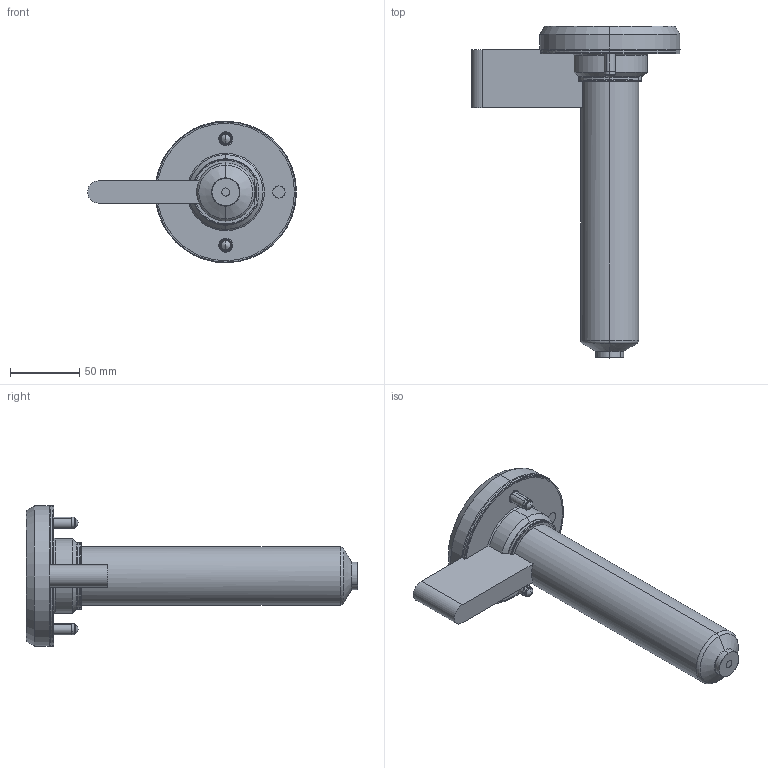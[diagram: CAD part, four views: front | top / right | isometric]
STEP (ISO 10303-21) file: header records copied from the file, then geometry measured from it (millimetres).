
FILE_DESCRIPTION (( 'STEP AP214' ), '1' );
FILE_NAME ('SOHSB16200-SOSRT1601.STEP', '2024-11-28T09:00:45', ( '' ), ( '' ), 'SwSTEP 2.0', 'SolidWorks 2022', '' );
FILE_SCHEMA (( 'AUTOMOTIVE_DESIGN' ));
Length unit declared in the file: millimetre
Products named in the file (9): EcoONE-HSB16-00002(A)_SOHSBLR16; SOHSB16200-SOSRT1601; EcoONE-HSB16-16005_SOTC10350-J; EcoONE-HSB16-16006_SONHC16; socket head cap screw_iso_ISO 4762 M8 x 25 - 25N; EcoONE-HSB16-Open Gate Sprue Tip_SOSRT1601; EcoONE-HSB16-Open Gate Cut-out Details_Sprue Gate or Full Body Gate; EcoONE-HSB16-16003(A)_SOHSBNB16200; EcoONE-HSB16-16004_SONH28192
Assembly tree (10 placements, depth 2):
  SOHSB16200-SOSRT1601
    EcoONE-HSB16-16003(A)_SOHSBNB16200
    EcoONE-HSB16-16004_SONH28192
    EcoONE-HSB16-16005_SOTC10350-J
    EcoONE-HSB16-16006_SONHC16  x2
    EcoONE-HSB16-00002(A)_SOHSBLR16
    socket head cap screw_iso_ISO 4762 M8 x 25 - 25N  x2
    EcoONE-HSB16-Open Gate Sprue Tip_SOSRT1601
    EcoONE-HSB16-Open Gate Cut-out Details_Sprue Gate or Full Body Gate
Bounding box: 151.2 x 240 x 102.4 mm (x, y, z)
Volume: 680563.5 mm3; surface area: 162555.2 mm2
Topology: 10 solids, 10 shells, 509 faces, 1279 edges, 803 vertices
Faces by surface type: cylinder 156, plane 132, bspline 106, cone 81, torus 26, sphere 8
Entity records: 29949 total; most frequent: CARTESIAN_POINT 18690, ORIENTED_EDGE 2338, DIRECTION 1932, EDGE_CURVE 1169, AXIS2_PLACEMENT_3D 779, VERTEX_POINT 742, EDGE_LOOP 505, ADVANCED_FACE 466
